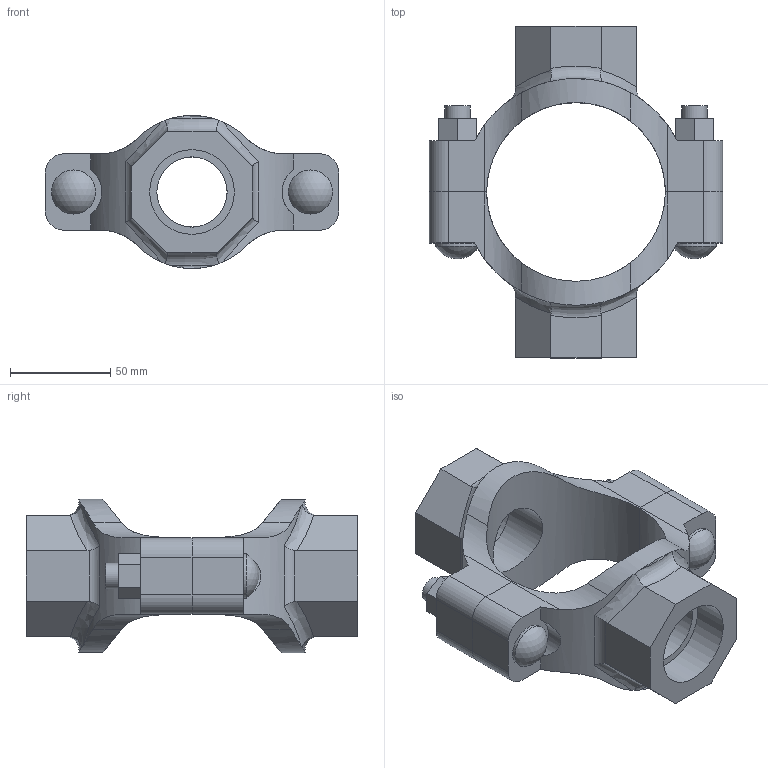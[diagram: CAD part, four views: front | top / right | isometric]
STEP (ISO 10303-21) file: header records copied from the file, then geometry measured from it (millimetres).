
FILE_DESCRIPTION(/* description */ ('VIC MECH-T BRANCH OUTLET CROSS STYLE 920N (THD)','CAx-IF Rec.Pracs.---Representation and Presentation of Product Manufacturing Information (PMI)---4.0---2014-10-13'),/* implementation_level */ '2;1');
FILE_NAME(/* name */ 'C:\Users\Vjadhav\AppData\Roaming\Autodesk\ApplicationPlugins\Back Up\Victaulic_IPS_Mechanical-Cross Outlet_Style 920N (FPT)\Victaulic_IPS_Mechanical-Cross Outlet_03.0x01.25x01.25 (80x32x32).stp',/* time_stamp */ '2020-08-06T18:57:37+05:00',/* author */ ('Vjadhav'),/* organization */ ('Victaulic'),/* preprocessor_version */ 'ST-DEVELOPER v17.2',/* originating_system */ 'Autodesk Inventor 2019',/* authorisation */ '');
FILE_SCHEMA (('AP242_MANAGED_MODEL_BASED_3D_ENGINEERING_MIM_LF { 1 0 10303 442 1 1 4 }'));
Length unit declared in the file: inch
Products named in the file (3): 920NT-03.0x01.25x01.25; 920NT-03.0x01.25; 920NT-03.0x01.25_1
Assembly tree (2 placements, depth 2):
  920NT-03.0x01.25x01.25
    920NT-03.0x01.25
    920NT-03.0x01.25_1
Bounding box: 146.05 x 165.1 x 76.2 mm (x, y, z)
Volume: 342960.8 mm3; surface area: 80239.8 mm2
Topology: 2 solids, 2 shells, 138 faces, 374 edges, 252 vertices
Faces by surface type: plane 68, cylinder 56, bspline 8, torus 4, sphere 2
Full cylindrical faces by diameter (mm): 12.7 x4, 21.982 x2, 34.925 x2, 42.164 x2
Entity records: 5440 total; most frequent: CARTESIAN_POINT 1771, ORIENTED_EDGE 748, DIRECTION 660, EDGE_CURVE 374, VERTEX_POINT 252, AXIS2_PLACEMENT_3D 237, LINE 186, VECTOR 186
